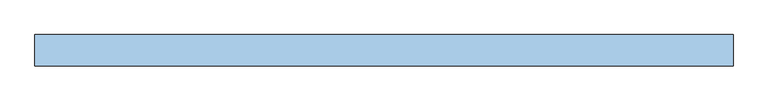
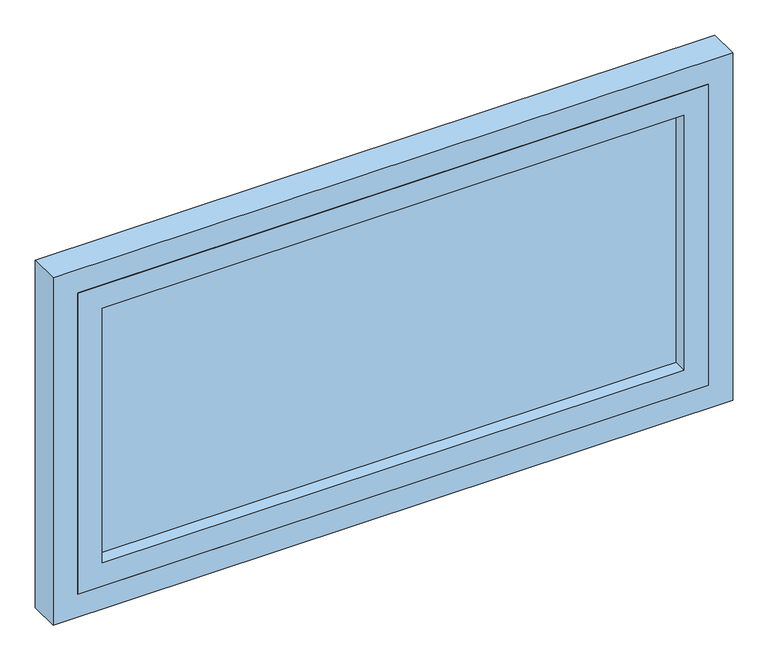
"""IFC4 building model written with IfcOpenShell, lengths in millimetres: window geometry, VENT_ALUM_PROY : VD-18 / PROY BAÑO 1.11 X 0.6."""

from ifc_helpers import new_model, si_unit, frame, origin, place, context, project, spatial, polyline, outline, extrude, source, transform, mapped, element, save


def window_3c66fd45(model_context):
    return source(origin(), model_context, "Body", "SweptSolid", [
        extrude(outline(polyline([(840.0, -515.0), (840.0, 515.0), (1360.0, 515.0), (1360.0, -515.0), (840.0, -515.0)]), holes=[polyline([(1320.0, -475.0), (1320.0, 475.0), (880.0, 475.0), (880.0, -475.0), (1320.0, -475.0)])]), frame((0.0, -25.0, 0.0), z_axis=(0.0, 1.0, 0.0), x_axis=(0.0, 0.0, 1.0)), (0.0, 0.0, 1.0), 50.0),
        extrude(outline(polyline([(475.0, -3.0), (-475.0, -3.0), (-475.0, 3.0), (475.0, 3.0), (475.0, -3.0)])), frame((0.0, 0.0, 880.0), z_axis=(0.0, 0.0, 1.0), x_axis=(1.0, 0.0, 0.0)), (0.0, 0.0, 1.0), 440.0),
        extrude(outline(polyline([(800.0, -555.0), (800.0, 555.0), (1400.0, 555.0), (1400.0, -555.0), (800.0, -555.0)]), holes=[polyline([(1360.0, -515.0), (1360.0, 515.0), (840.0, 515.0), (840.0, -515.0), (1360.0, -515.0)])]), frame((0.0, -25.0, 0.0), z_axis=(0.0, 1.0, 0.0), x_axis=(0.0, 0.0, 1.0)), (0.0, 0.0, 1.0), 50.0),
    ])


if __name__ == "__main__":
    model = new_model("IFC4")
    model_context = context("Model", 3, world=origin())
    ifc_project = project(units=[si_unit("LENGTHUNIT", "METRE", prefix="MILLI")], contexts=[model_context])
    site = spatial("IfcSite", under=ifc_project)
    building = spatial("IfcBuilding", under=site)
    placement = place(None, origin())
    window_shape = window_3c66fd45(model_context)
    element("IfcWindow", 1, ObjectType="VENT_ALUM_PROY : VD-18 / PROY BAÑO 1.11 X 0.6", at=placement, inside=building, context=model_context, shape_type="MappedRepresentation", body=[
        mapped(window_shape, transform((0.0, 0.0, 0.0), x_axis=(1.0, 0.0, 0.0), y_axis=(0.0, 1.0, 0.0), z_axis=(0.0, 0.0, 1.0))),
    ])
    save(model, "model.ifc")
